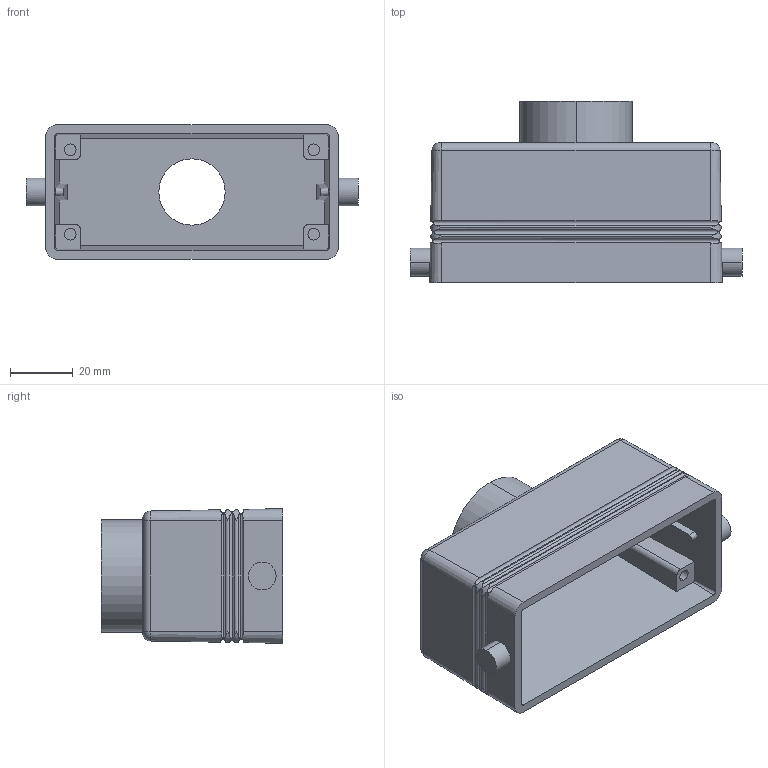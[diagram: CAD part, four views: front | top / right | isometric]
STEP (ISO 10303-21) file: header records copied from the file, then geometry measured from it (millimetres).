
FILE_DESCRIPTION (( 'STEP AP214' ), '1' );
FILE_NAME ('CHV-16L.STEP', '2005-05-20T14:34:17', ( 'Bruce' ), ( 'Mencom Corporation' ), 'SwSTEP 2.0', 'SolidWorks 2005103', '' );
FILE_SCHEMA (( 'AUTOMOTIVE_DESIGN' ));
Length unit declared in the file: inch
Products named in the file (1): CHV-16L
Bounding box: 106.05 x 58.03 x 43 mm (x, y, z)
Volume: 55213.9 mm3; surface area: 33432.4 mm2
Topology: 1 solids, 1 shells, 117 faces, 318 edges, 212 vertices
Faces by surface type: cylinder 58, plane 45, cone 10, torus 4
Entity records: 4337 total; most frequent: CARTESIAN_POINT 1356, ORIENTED_EDGE 636, DIRECTION 546, EDGE_CURVE 318, VERTEX_POINT 212, AXIS2_PLACEMENT_3D 190, VECTOR 166, LINE 166
